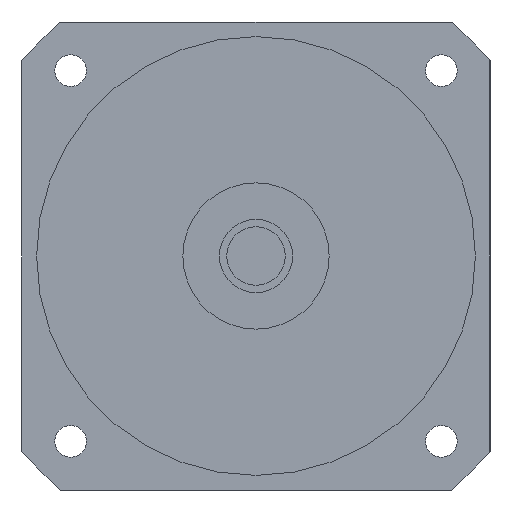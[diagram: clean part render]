
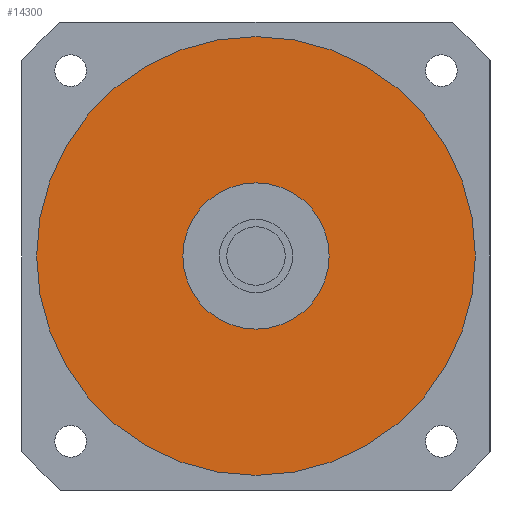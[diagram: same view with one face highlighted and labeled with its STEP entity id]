
A CAD part, left-side view. The second image highlights one B-rep face of the part: STEP entity #14300.
In plain terms, the highlighted planar face has unit normal (-1, 0, 0) as drawn and (0, 0, -1) by its records, which use the part's own axes.
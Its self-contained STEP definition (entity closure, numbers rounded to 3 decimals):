
#13720=CARTESIAN_POINT('',(90.,0.,-62.1));
#13730=VERTEX_POINT('',#13720);
#13820=CARTESIAN_POINT('',(-90.,0.,-62.1));
#13830=VERTEX_POINT('',#13820);
#13860=CARTESIAN_POINT('',(0.,0.,
-62.1));
#13870=DIRECTION('',(0.,0.,1.));
#13880=DIRECTION('',(0.,1.,0.));
#13890=AXIS2_PLACEMENT_3D('',#13860,#13870,#13880);
#13900=CIRCLE('',#13890,90.);
#13910=CARTESIAN_POINT('',(0.,90.,-62.1));
#13920=VERTEX_POINT('',#13910);
#13930=EDGE_CURVE('',#13920,#13830,#13900,.T.);
#13950=EDGE_CURVE('',#13730,#13920,#13900,.T.);
#14000=CARTESIAN_POINT('',(0.,0.,
-62.1));
#14010=DIRECTION('',(0.,0.,1.));
#14020=DIRECTION('',(-1.,0.,0.));
#14030=AXIS2_PLACEMENT_3D('',#14000,#14010,#14020);
#14040=PLANE('',#14030);
#14050=ORIENTED_EDGE('',*,*,#13930,.F.);
#14060=EDGE_CURVE('',#13830,#13730,#13900,.T.);
#14070=ORIENTED_EDGE('',*,*,#14060,.F.);
#14080=ORIENTED_EDGE('',*,*,#13950,.F.);
#14090=EDGE_LOOP('',(#14080,#14070,#14050));
#14100=FACE_OUTER_BOUND('',#14090,.T.);
#14110=CARTESIAN_POINT('',(0.,0.,
-62.1));
#14120=DIRECTION('',(0.,0.,1.));
#14130=DIRECTION('',(0.,1.,0.));
#14140=AXIS2_PLACEMENT_3D('',#14110,#14120,#14130);
#14150=CIRCLE('',#14140,30.);
#14160=CARTESIAN_POINT('',(-30.,0.,-62.1));
#14170=VERTEX_POINT('',#14160);
#14180=CARTESIAN_POINT('',(30.,0.,-62.1));
#14190=VERTEX_POINT('',#14180);
#14200=EDGE_CURVE('',#14170,#14190,#14150,.T.);
#14210=ORIENTED_EDGE('',*,*,#14200,.T.);
#14220=CARTESIAN_POINT('',(0.,30.,-62.1));
#14230=VERTEX_POINT('',#14220);
#14240=EDGE_CURVE('',#14230,#14170,#14150,.T.);
#14250=ORIENTED_EDGE('',*,*,#14240,.T.);
#14260=EDGE_CURVE('',#14190,#14230,#14150,.T.);
#14270=ORIENTED_EDGE('',*,*,#14260,.T.);
#14280=EDGE_LOOP('',(#14270,#14250,#14210));
#14290=FACE_BOUND('',#14280,.T.);
#14300=ADVANCED_FACE('',(#14100,#14290),#14040,.F.);
